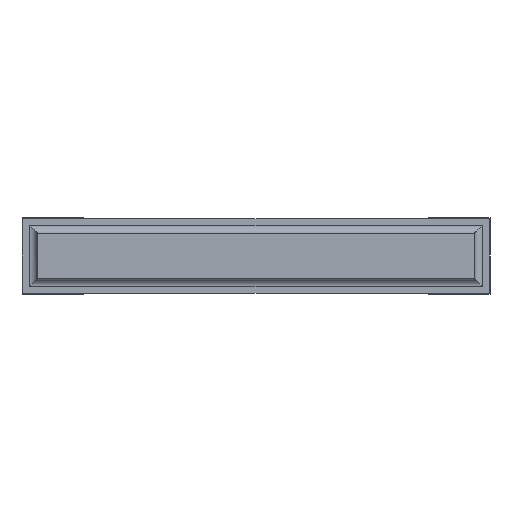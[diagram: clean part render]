
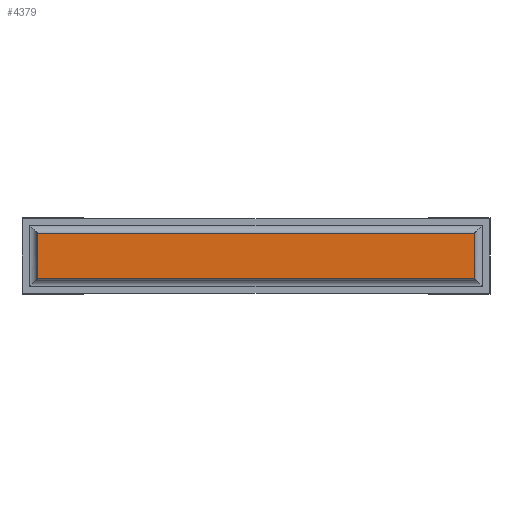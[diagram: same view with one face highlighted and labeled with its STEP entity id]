
A CAD part, front view. The second image highlights one B-rep face of the part: STEP entity #4379.
In plain terms, the highlighted planar face has unit normal (0, -1, 0).
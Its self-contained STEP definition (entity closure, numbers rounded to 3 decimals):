
#61=PLANE('',#4689);
#281=FACE_OUTER_BOUND('',#554,.T.);
#554=EDGE_LOOP('',(#3095,#3096,#3097,#3098));
#834=LINE('',#6249,#1406);
#840=LINE('',#6265,#1412);
#849=LINE('',#6282,#1421);
#850=LINE('',#6284,#1422);
#1406=VECTOR('',#5018,10.);
#1412=VECTOR('',#5032,10.);
#1421=VECTOR('',#5049,10.);
#1422=VECTOR('',#5052,10.);
#2035=VERTEX_POINT('',#6246);
#2036=VERTEX_POINT('',#6248);
#2041=VERTEX_POINT('',#6261);
#2042=VERTEX_POINT('',#6263);
#2436=EDGE_CURVE('',#2036,#2035,#834,.T.);
#2444=EDGE_CURVE('',#2042,#2041,#840,.T.);
#2453=EDGE_CURVE('',#2036,#2042,#849,.T.);
#2454=EDGE_CURVE('',#2041,#2035,#850,.T.);
#3095=ORIENTED_EDGE('',*,*,#2453,.F.);
#3096=ORIENTED_EDGE('',*,*,#2436,.T.);
#3097=ORIENTED_EDGE('',*,*,#2454,.F.);
#3098=ORIENTED_EDGE('',*,*,#2444,.F.);
#4379=ADVANCED_FACE('',(#281),#61,.T.);
#4689=AXIS2_PLACEMENT_3D('',#6283,#5050,#5051);
#5018=DIRECTION('',(0.,0.,-1.));
#5032=DIRECTION('',(0.,0.,-1.));
#5049=DIRECTION('',(1.,0.,0.));
#5050=DIRECTION('center_axis',(0.,-1.,0.));
#5051=DIRECTION('ref_axis',(0.,0.,-1.));
#5052=DIRECTION('',(-1.,0.,0.));
#6246=CARTESIAN_POINT('',(0.1,0.,0.1));
#6248=CARTESIAN_POINT('',(0.1,0.,0.4));
#6249=CARTESIAN_POINT('',(0.1,0.,0.4));
#6261=CARTESIAN_POINT('',(2.96,0.,0.1));
#6263=CARTESIAN_POINT('',(2.96,0.,0.4));
#6265=CARTESIAN_POINT('',(2.96,0.,0.4));
#6282=CARTESIAN_POINT('',(0.1,0.,0.4));
#6283=CARTESIAN_POINT('Origin',(2.96,0.,0.25));
#6284=CARTESIAN_POINT('',(2.96,0.,0.1));
